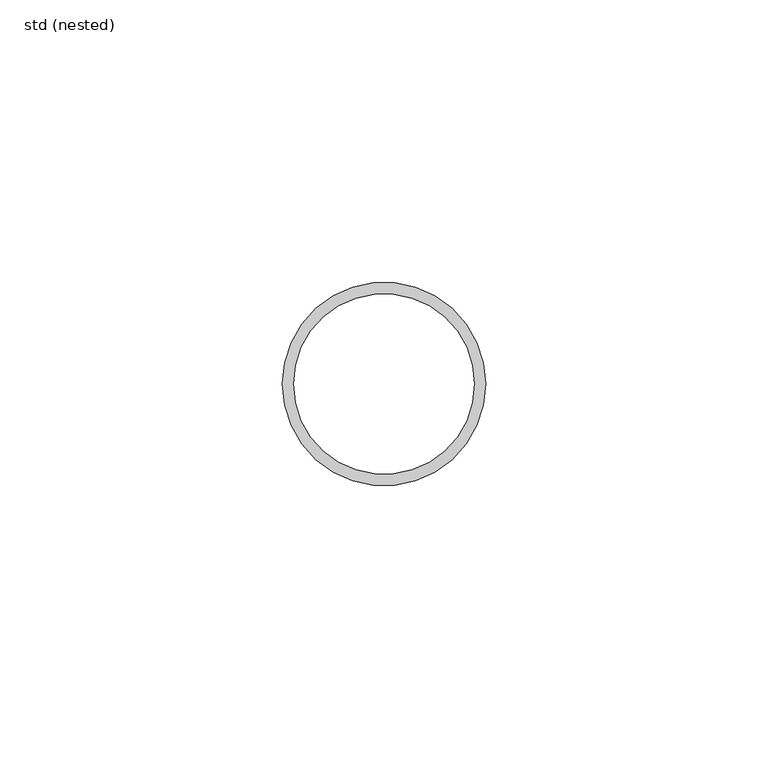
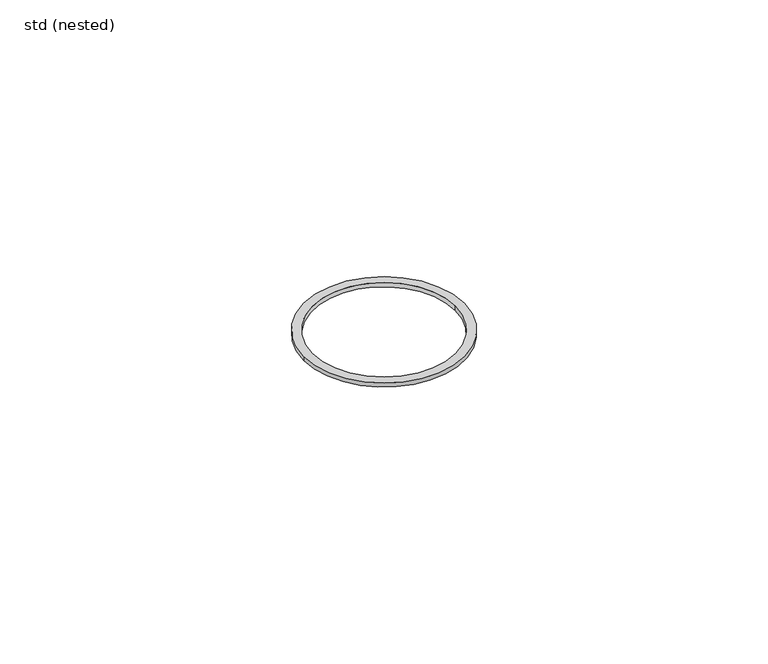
"""IFC4 building model written with IfcOpenShell, lengths in millimetres: pipe fitting geometry, ZZZ_do not use_PIF_GEN_WPB_GM-X (compound) pipe seal_ACO : std (nested)."""

from ifc_helpers import new_model, si_unit, point, frame, origin, origin_2d, place, context, project, spatial, circle_curve, trimmed, segment, composite_curve, outline, extrude, source, transform, mapped, element, save


def std_nested_96a4acab(model_context):
    return source(origin(), model_context, "Body", "SweptSolid", [
        extrude(outline(composite_curve([segment(trimmed(circle_curve(origin_2d(), 18.0), [point((18.0, 0.0))], [point((-18.0, 0.0))], False, "CARTESIAN"), True, "CONTINUOUS"), segment(trimmed(circle_curve(origin_2d(), 18.0), [point((-18.0, 0.0))], [point((18.0, 0.0))], False, "CARTESIAN"), True, "CONTINUOUS")], self_intersect=False), holes=[composite_curve([segment(trimmed(circle_curve(origin_2d(), 16.0), [point((16.0, 0.0))], [point((-16.0, 0.0))], True, "CARTESIAN"), True, "CONTINUOUS"), segment(trimmed(circle_curve(origin_2d(), 16.0), [point((-16.0, 0.0))], [point((16.0, 0.0))], True, "CARTESIAN"), True, "CONTINUOUS")], self_intersect=False)]), frame((0.0, 0.0, -27.0), z_axis=(0.0, 0.0, 1.0), x_axis=(1.0, 0.0, 0.0)), (0.0, 0.0, 1.0), 1.0),
    ])


if __name__ == "__main__":
    model = new_model("IFC4")
    model_context = context("Model", 3, world=origin())
    ifc_project = project(units=[si_unit("LENGTHUNIT", "METRE", prefix="MILLI")], contexts=[model_context])
    site = spatial("IfcSite", under=ifc_project)
    building = spatial("IfcBuilding", under=site)
    placement = place(None, origin())
    std_nested_shape = std_nested_96a4acab(model_context)
    element("IfcPipeFitting", 1, ObjectType="ZZZ_do not use_PIF_GEN_WPB_GM-X (compound) pipe seal_ACO : std (nested)", at=placement, inside=building, context=model_context, shape_type="MappedRepresentation", body=[
        mapped(std_nested_shape, transform((0.0, 0.0, 0.0), x_axis=(1.0, 0.0, 0.0), y_axis=(0.0, 1.0, 0.0), z_axis=(0.0, 0.0, 1.0))),
    ])
    save(model, "model.ifc")
